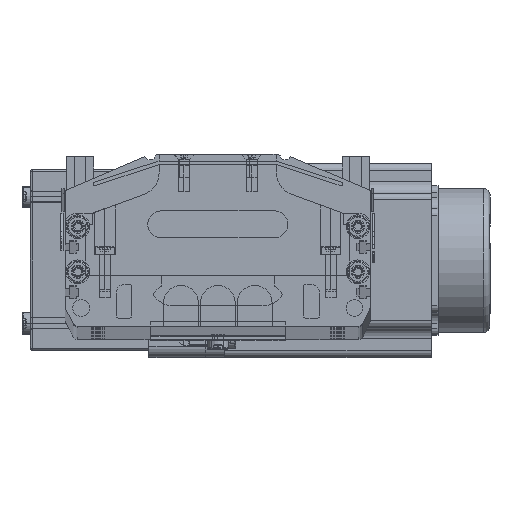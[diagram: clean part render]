
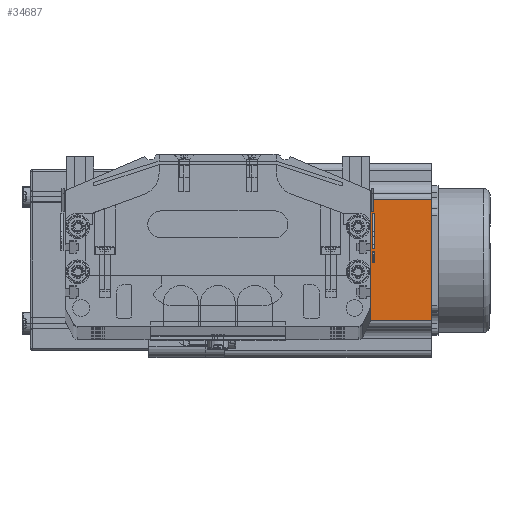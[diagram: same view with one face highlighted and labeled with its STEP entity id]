
A CAD part, top view. The second image highlights one B-rep face of the part: STEP entity #34687.
In plain terms, the highlighted planar face has unit normal (0, 0, 1) as drawn and (-1, 0, 0) by its records, which use the part's own axes.
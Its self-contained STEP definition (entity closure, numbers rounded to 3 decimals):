
#18 = DIRECTION ( 'NONE',  ( 0., 0., 1. ) ) ;
#19 = VECTOR ( 'NONE', #18, 1000. ) ;
#22 = CARTESIAN_POINT ( 'NONE',  ( 0., 16.16, 91.5 ) ) ;
#23 = LINE ( 'NONE', #22, #19 ) ;
#26 = CARTESIAN_POINT ( 'NONE',  ( 0., 16.16, 0. ) ) ;
#31 = VECTOR ( 'NONE', #50, 1000. ) ;
#32 = CARTESIAN_POINT ( 'NONE',  ( 0., 0., 0. ) ) ;
#33 = CARTESIAN_POINT ( 'NONE',  ( 0., 16.16, 91.5 ) ) ;
#49 = LINE ( 'NONE', #32, #31 ) ;
#50 = DIRECTION ( 'NONE',  ( 0., -1., 0. ) ) ;
#110 = VECTOR ( 'NONE', #124, 1000. ) ;
#116 = LINE ( 'NONE', #125, #110 ) ;
#124 = DIRECTION ( 'NONE',  ( 0., 0., -1. ) ) ;
#125 = CARTESIAN_POINT ( 'NONE',  ( 0., 69.74, 91.5 ) ) ;
#269 = DIRECTION ( 'NONE',  ( 0., -1., 0. ) ) ;
#270 = VECTOR ( 'NONE', #269, 1000. ) ;
#271 = CARTESIAN_POINT ( 'NONE',  ( 0., 0., 91.5 ) ) ;
#287 = LINE ( 'NONE', #271, #270 ) ;
#20042 = AXIS2_PLACEMENT_3D ( 'NONE', #20242, #20240, #20238 ) ;
#20066 = FACE_OUTER_BOUND ( 'NONE', #34750, .T. ) ;
#20171 = PLANE ( 'NONE',  #20042 ) ;
#20238 = DIRECTION ( 'NONE',  ( 0., 0., -1. ) ) ;
#20240 = DIRECTION ( 'NONE',  ( 1., 0., 0. ) ) ;
#20242 = CARTESIAN_POINT ( 'NONE',  ( 0., 0., 91.5 ) ) ;
#20525 = CARTESIAN_POINT ( 'NONE',  ( 0., 69.74, 91.5 ) ) ;
#20527 = CARTESIAN_POINT ( 'NONE',  ( 0., 69.74, 0. ) ) ;
#34687 = ADVANCED_FACE ( 'NONE', ( #20066 ), #20171, .F. ) ;
#34688 = ORIENTED_EDGE ( 'NONE', *, *, #34756, .T. ) ;
#34690 = ORIENTED_EDGE ( 'NONE', *, *, #34766, .T. ) ;
#34713 = VERTEX_POINT ( 'NONE', #20525 ) ;
#34727 = VERTEX_POINT ( 'NONE', #20527 ) ;
#34743 = ORIENTED_EDGE ( 'NONE', *, *, #34747, .T. ) ;
#34747 = EDGE_CURVE ( 'NONE', #34727, #34755, #49, .T. ) ;
#34750 = EDGE_LOOP ( 'NONE', ( #34743, #34688, #34835, #34690 ) ) ;
#34755 = VERTEX_POINT ( 'NONE', #26 ) ;
#34756 = EDGE_CURVE ( 'NONE', #34755, #34757, #23, .T. ) ;
#34757 = VERTEX_POINT ( 'NONE', #33 ) ;
#34766 = EDGE_CURVE ( 'NONE', #34713, #34727, #116, .T. ) ;
#34834 = EDGE_CURVE ( 'NONE', #34713, #34757, #287, .T. ) ;
#34835 = ORIENTED_EDGE ( 'NONE', *, *, #34834, .F. ) ;
